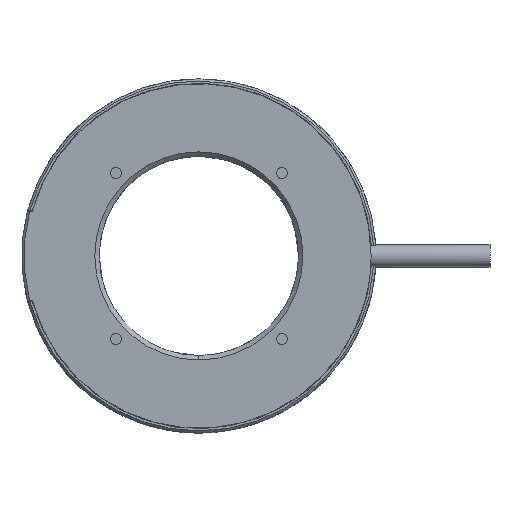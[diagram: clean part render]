
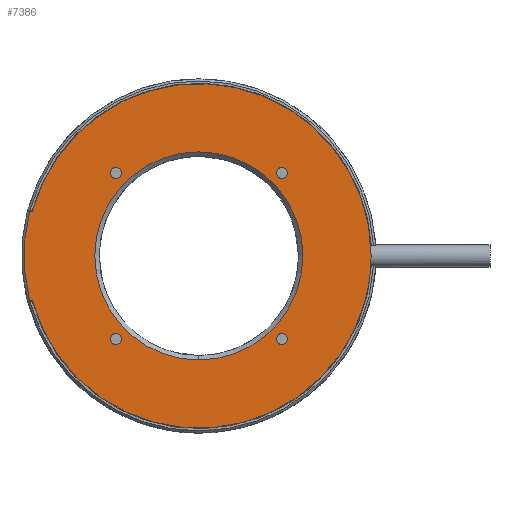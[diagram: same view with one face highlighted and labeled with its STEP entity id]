
A CAD part, top view. The second image highlights one B-rep face of the part: STEP entity #7386.
In plain terms, the highlighted planar face has unit normal (0, 0, 1).
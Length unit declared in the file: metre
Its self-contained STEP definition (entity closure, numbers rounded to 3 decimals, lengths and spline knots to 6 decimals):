
#1587=CARTESIAN_POINT('',(0.,0.,0.002));
#1588=DIRECTION('',(0.,0.,-1.));
#1589=DIRECTION('',(0.,-1.,0.));
#1590=AXIS2_PLACEMENT_3D('',#1587,#1588,#1589);
#1592=CARTESIAN_POINT('',(0.,0.,0.002));
#1593=DIRECTION('',(0.,0.,-1.));
#1594=DIRECTION('',(0.,1.,0.));
#1595=AXIS2_PLACEMENT_3D('',#1592,#1593,#1594);
#1597=CARTESIAN_POINT('',(0.018738,0.018738,0.002));
#1598=DIRECTION('',(0.,0.,-1.));
#1599=DIRECTION('',(0.,1.,0.));
#1600=AXIS2_PLACEMENT_3D('',#1597,#1598,#1599);
#1602=CARTESIAN_POINT('',(0.018738,0.018738,0.002));
#1603=DIRECTION('',(0.,0.,-1.));
#1604=DIRECTION('',(0.,-1.,0.));
#1605=AXIS2_PLACEMENT_3D('',#1602,#1603,#1604);
#1607=CARTESIAN_POINT('',(-0.018738,0.018738,0.002));
#1608=DIRECTION('',(0.,0.,-1.));
#1609=DIRECTION('',(-1.,0.,0.));
#1610=AXIS2_PLACEMENT_3D('',#1607,#1608,#1609);
#1612=CARTESIAN_POINT('',(-0.018738,0.018738,0.002));
#1613=DIRECTION('',(0.,0.,-1.));
#1614=DIRECTION('',(1.,0.,0.));
#1615=AXIS2_PLACEMENT_3D('',#1612,#1613,#1614);
#1617=CARTESIAN_POINT('',(-0.018738,-0.018738,0.002));
#1618=DIRECTION('',(0.,0.,-1.));
#1619=DIRECTION('',(0.,-1.,0.));
#1620=AXIS2_PLACEMENT_3D('',#1617,#1618,#1619);
#1622=CARTESIAN_POINT('',(-0.018738,-0.018738,0.002));
#1623=DIRECTION('',(0.,0.,-1.));
#1624=DIRECTION('',(0.,1.,0.));
#1625=AXIS2_PLACEMENT_3D('',#1622,#1623,#1624);
#1627=CARTESIAN_POINT('',(0.018738,-0.018738,0.002));
#1628=DIRECTION('',(0.,0.,-1.));
#1629=DIRECTION('',(1.,0.,0.));
#1630=AXIS2_PLACEMENT_3D('',#1627,#1628,#1629);
#1632=CARTESIAN_POINT('',(0.018738,-0.018738,0.002));
#1633=DIRECTION('',(0.,0.,-1.));
#1634=DIRECTION('',(-1.,0.,0.));
#1635=AXIS2_PLACEMENT_3D('',#1632,#1633,#1634);
#1637=CARTESIAN_POINT('',(-0.037975,0.0105,0.002));
#1638=DIRECTION('',(0.,0.,-1.));
#1639=DIRECTION('',(0.964,-0.266,0.));
#1640=AXIS2_PLACEMENT_3D('',#1637,#1638,#1639);
#1642=CARTESIAN_POINT('',(0.,0.,0.002));
#1643=DIRECTION('',(0.,0.,1.));
#1644=DIRECTION('',(1.,0.,0.));
#1645=AXIS2_PLACEMENT_3D('',#1642,#1643,#1644);
#1647=CARTESIAN_POINT('',(0.,0.,0.002));
#1648=DIRECTION('',(0.,0.,1.));
#1649=DIRECTION('',(0.964,-0.266,0.));
#1650=AXIS2_PLACEMENT_3D('',#1647,#1648,#1649);
#1652=CARTESIAN_POINT('',(0.,0.,0.002));
#1653=DIRECTION('',(0.,0.,1.));
#1654=DIRECTION('',(-0.964,-0.266,0.));
#1655=AXIS2_PLACEMENT_3D('',#1652,#1653,#1654);
#1657=CARTESIAN_POINT('',(-0.037975,-0.0105,0.002));
#1658=DIRECTION('',(0.,0.,-1.));
#1659=DIRECTION('',(0.,1.,0.));
#1660=AXIS2_PLACEMENT_3D('',#1657,#1658,#1659);
#1662=CARTESIAN_POINT('',(0.,0.,0.002));
#1663=DIRECTION('',(0.,0.,1.));
#1664=DIRECTION('',(-0.967,0.253,0.));
#1665=AXIS2_PLACEMENT_3D('',#1662,#1663,#1664);
#1747=DIRECTION('',(1.,0.,0.));
#1748=VECTOR('',#1747,0.000238);
#1749=CARTESIAN_POINT('',(-0.038213,0.01,0.002));
#1750=LINE('',#1749,#1748);
#3738=DIRECTION('',(-1.,0.,0.));
#3739=VECTOR('',#3738,0.000238);
#3740=CARTESIAN_POINT('',(-0.037975,-0.01,0.002));
#3741=LINE('',#3740,#3739);
#4011=CARTESIAN_POINT('',(-0.037493,-0.010367,0.002));
#4012=CARTESIAN_POINT('',(0.037493,-0.010367,0.002));
#4013=VERTEX_POINT('',#4011);
#4014=VERTEX_POINT('',#4012);
#4015=CARTESIAN_POINT('',(0.0389,0.,0.002));
#4016=VERTEX_POINT('',#4015);
#4017=CARTESIAN_POINT('',(-0.037493,0.010367,0.002));
#4018=VERTEX_POINT('',#4017);
#4019=CARTESIAN_POINT('',(-0.037975,-0.01,0.002));
#4020=VERTEX_POINT('',#4019);
#4021=CARTESIAN_POINT('',(-0.038213,-0.01,0.002));
#4022=VERTEX_POINT('',#4021);
#4023=CARTESIAN_POINT('',(-0.038213,0.01,0.002));
#4024=VERTEX_POINT('',#4023);
#4025=CARTESIAN_POINT('',(-0.037975,0.01,0.002));
#4026=VERTEX_POINT('',#4025);
#4027=CARTESIAN_POINT('',(0.017488,-0.018738,0.002));
#4028=CARTESIAN_POINT('',(0.019988,-0.018738,0.002));
#4029=VERTEX_POINT('',#4027);
#4030=VERTEX_POINT('',#4028);
#4031=CARTESIAN_POINT('',(-0.018738,-0.017488,0.002));
#4032=CARTESIAN_POINT('',(-0.018738,-0.019988,0.002));
#4033=VERTEX_POINT('',#4031);
#4034=VERTEX_POINT('',#4032);
#4035=CARTESIAN_POINT('',(-0.017488,0.018738,0.002));
#4036=CARTESIAN_POINT('',(-0.019988,0.018738,0.002));
#4037=VERTEX_POINT('',#4035);
#4038=VERTEX_POINT('',#4036);
#4039=CARTESIAN_POINT('',(0.018738,0.017488,0.002));
#4040=CARTESIAN_POINT('',(0.018738,0.019988,0.002));
#4041=VERTEX_POINT('',#4039);
#4042=VERTEX_POINT('',#4040);
#4043=CARTESIAN_POINT('',(0.,0.0235,0.002));
#4044=CARTESIAN_POINT('',(0.,-0.0235,0.002));
#4045=VERTEX_POINT('',#4043);
#4046=VERTEX_POINT('',#4044);
#7335=CARTESIAN_POINT('',(0.,0.,0.002));
#7336=DIRECTION('',(0.,0.,-1.));
#7337=DIRECTION('',(0.,1.,0.));
#7338=AXIS2_PLACEMENT_3D('',#7335,#7336,#7337);
#7339=PLANE('',#7338);
#7341=ORIENTED_EDGE('',*,*,#7340,.F.);
#7343=ORIENTED_EDGE('',*,*,#7342,.F.);
#7345=ORIENTED_EDGE('',*,*,#7344,.F.);
#7347=ORIENTED_EDGE('',*,*,#7346,.F.);
#7349=ORIENTED_EDGE('',*,*,#7348,.F.);
#7351=ORIENTED_EDGE('',*,*,#7350,.T.);
#7353=ORIENTED_EDGE('',*,*,#7352,.F.);
#7355=ORIENTED_EDGE('',*,*,#7354,.T.);
#7356=EDGE_LOOP('',(#7341,#7343,#7345,#7347,#7349,#7351,#7353,#7355));
#7357=FACE_OUTER_BOUND('',#7356,.F.);
#7359=ORIENTED_EDGE('',*,*,#7358,.F.);
#7361=ORIENTED_EDGE('',*,*,#7360,.F.);
#7362=EDGE_LOOP('',(#7359,#7361));
#7363=FACE_BOUND('',#7362,.F.);
#7365=ORIENTED_EDGE('',*,*,#7364,.F.);
#7367=ORIENTED_EDGE('',*,*,#7366,.F.);
#7368=EDGE_LOOP('',(#7365,#7367));
#7369=FACE_BOUND('',#7368,.F.);
#7371=ORIENTED_EDGE('',*,*,#7370,.F.);
#7373=ORIENTED_EDGE('',*,*,#7372,.F.);
#7374=EDGE_LOOP('',(#7371,#7373));
#7375=FACE_BOUND('',#7374,.F.);
#7377=ORIENTED_EDGE('',*,*,#7376,.F.);
#7379=ORIENTED_EDGE('',*,*,#7378,.F.);
#7380=EDGE_LOOP('',(#7377,#7379));
#7381=FACE_BOUND('',#7380,.F.);
#7382=ORIENTED_EDGE('',*,*,#7314,.F.);
#7383=ORIENTED_EDGE('',*,*,#7328,.F.);
#7384=EDGE_LOOP('',(#7382,#7383));
#7385=FACE_BOUND('',#7384,.F.);
#7386=ADVANCED_FACE('',(#7357,#7363,#7369,#7375,#7381,#7385),#7339,.F.);
#1591=CIRCLE('',#1590,0.0235);
#1596=CIRCLE('',#1595,0.0235);
#1601=CIRCLE('',#1600,0.00125);
#1606=CIRCLE('',#1605,0.00125);
#1611=CIRCLE('',#1610,0.00125);
#1616=CIRCLE('',#1615,0.00125);
#1621=CIRCLE('',#1620,0.00125);
#1626=CIRCLE('',#1625,0.00125);
#1631=CIRCLE('',#1630,0.00125);
#1636=CIRCLE('',#1635,0.00125);
#1641=CIRCLE('',#1640,0.0005);
#1646=CIRCLE('',#1645,0.0389);
#1651=CIRCLE('',#1650,0.0389);
#1656=CIRCLE('',#1655,0.0389);
#1661=CIRCLE('',#1660,0.0005);
#1666=CIRCLE('',#1665,0.0395);
#7314=EDGE_CURVE('',#4046,#4045,#1591,.T.);
#7328=EDGE_CURVE('',#4045,#4046,#1596,.T.);
#7340=EDGE_CURVE('',#4018,#4026,#1641,.T.);
#7342=EDGE_CURVE('',#4016,#4018,#1646,.T.);
#7344=EDGE_CURVE('',#4014,#4016,#1651,.T.);
#7346=EDGE_CURVE('',#4013,#4014,#1656,.T.);
#7348=EDGE_CURVE('',#4020,#4013,#1661,.T.);
#7350=EDGE_CURVE('',#4020,#4022,#3741,.T.);
#7352=EDGE_CURVE('',#4024,#4022,#1666,.T.);
#7354=EDGE_CURVE('',#4024,#4026,#1750,.T.);
#7358=EDGE_CURVE('',#4042,#4041,#1601,.T.);
#7360=EDGE_CURVE('',#4041,#4042,#1606,.T.);
#7364=EDGE_CURVE('',#4038,#4037,#1611,.T.);
#7366=EDGE_CURVE('',#4037,#4038,#1616,.T.);
#7370=EDGE_CURVE('',#4034,#4033,#1621,.T.);
#7372=EDGE_CURVE('',#4033,#4034,#1626,.T.);
#7376=EDGE_CURVE('',#4030,#4029,#1631,.T.);
#7378=EDGE_CURVE('',#4029,#4030,#1636,.T.);
